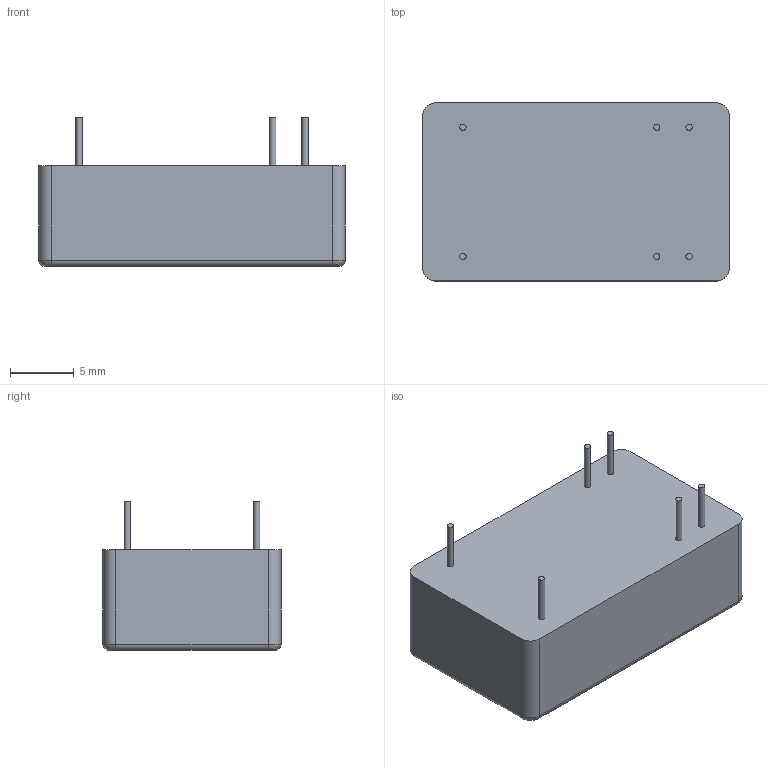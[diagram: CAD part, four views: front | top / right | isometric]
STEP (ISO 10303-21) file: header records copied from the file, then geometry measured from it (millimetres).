
FILE_DESCRIPTION(/* description */ (''),/* implementation_level */ '2;1');
FILE_NAME(/* name */ 'C:\Users\CALLIOPE\Documents\Inventor\機台模治具\型錄用3D尺寸外觀\型錄用-STEP檔\MDW08.stp',/* time_stamp */ '2015-03-12T18:25:23+08:00',/* author */ ('CALLIOPE'),/* organization */ (''),/* preprocessor_version */ 'ST-DEVELOPER v15.6',/* originating_system */ 'Autodesk Inventor 2015',/* authorisation */ '');
FILE_SCHEMA (('AUTOMOTIVE_DESIGN { 1 0 10303 214 3 1 1 }'));
Length unit declared in the file: millimetre
Products named in the file (1): MDW08
Bounding box: 24.1 x 14 x 11.7 mm (x, y, z)
Volume: 2659.2 mm3; surface area: 1281.2 mm2
Topology: 1 solids, 1 shells, 30 faces, 58 edges, 36 vertices
Faces by surface type: cylinder 14, plane 12, bspline 4
Full cylindrical faces by diameter (mm): 0.5 x6
Entity records: 780 total; most frequent: CARTESIAN_POINT 151, DIRECTION 138, ORIENTED_EDGE 104, AXIS2_PLACEMENT_3D 59, EDGE_CURVE 52, EDGE_LOOP 42, VERTEX_POINT 36, CIRCLE 32
